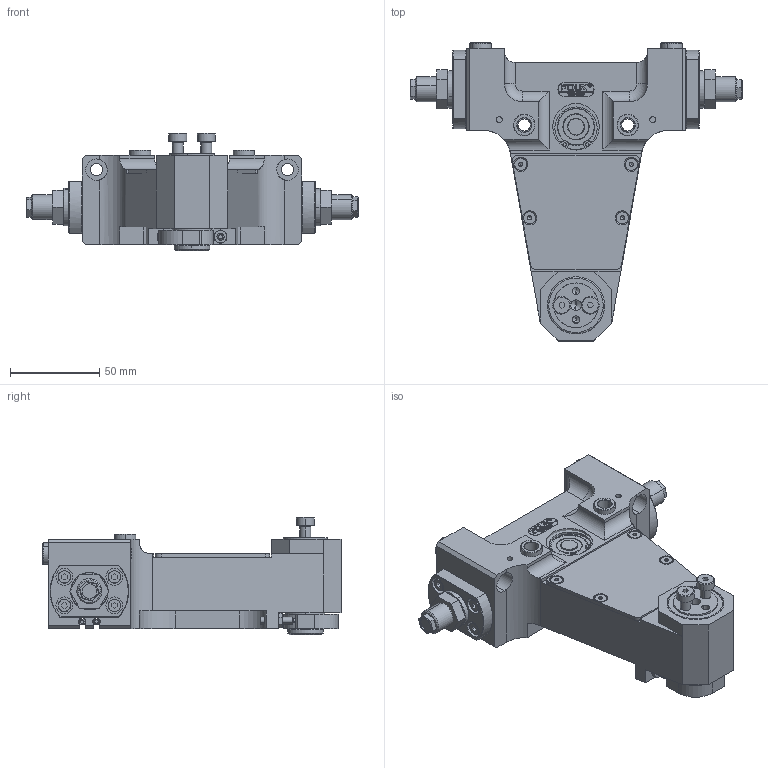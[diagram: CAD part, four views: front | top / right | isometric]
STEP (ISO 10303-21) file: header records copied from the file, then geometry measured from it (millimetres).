
FILE_DESCRIPTION (( 'STEP AP203' ), '1' );
FILE_NAME ('GS25-90¡ã-L.STEP', '2026-05-08T08:09:15', ( 'USER-' ), ( 'Microsoft' ), 'SwSTEP 2.0', 'SolidWorks 2018', '' );
FILE_SCHEMA (( 'CONFIG_CONTROL_DESIGN' ));
Length unit declared in the file: millimetre
Products named in the file (24): 20x8-R4; GS25-90∼-L; GS25-04 葡裔啣; GS25-02 遣喳ん裔啣; M14X1 綠僅6牉挴蹟譫; GB╱T 276-2013[两面带密封圈（接触式）的深沟球轴承[60000-2RS]629-2RS]; GS25-01 褲极; 棠羲換覜ん; 湍潛蹟邡; TG25-M-09躇猾詩遠; GB╱T 6174-2016[六角薄螺母 无倒角M4]; GB╱T 893.1-1986[孔用弹性挡圈A型26]; GB╱T 79-2007[内六角圆柱端紧定螺钉M4×20]; GS25-11 茞癹弇傷裔; YH1412-AP-01蜊輛倰褲极-1; 1412倰遣喳ん蜊輛遴(1)-2; 内六角平端紧定螺钉[GBT77-2000][M5×5]_M5×5; GS25-08 第二齿轮轴16×1.25; ﾏ擎ﾗ12｡ﾁ8｡ﾁ6; GS25-06 第一齿轮轴16×1.25; GB╱T 290-2017[一面带密封圈的开口型滚针轴承 HK 0000-RS型HK2516-RS]; 内六角圆柱头螺钉[GBT70_1-2008][M4×12]_M4×12; 内六角沉头螺钉[GBT70_3-2008][M3×8×6]_M3×8×6; GS25-10 90｡耨ｲﾏﾞﾎｻ
Assembly tree (44 placements, depth 3):
  GS25-90∼-L
    GS25-01 褲极
    GB╱T 290-2017[一面带密封圈的开口型滚针轴承 HK 0000-RS型HK2516-RS]
    GS25-06 第一齿轮轴16×1.25
    GS25-08 第二齿轮轴16×1.25
    GS25-02 遣喳ん裔啣  x2
    GB╱T 276-2013[两面带密封圈（接触式）的深沟球轴承[60000-2RS]629-2RS]
    GB╱T 893.1-1986[孔用弹性挡圈A型26]
    GS25-04 葡裔啣
    GB╱T 79-2007[内六角圆柱端紧定螺钉M4×20]  x2
    GB╱T 6174-2016[六角薄螺母 无倒角M4]  x2
    GS25-10 90｡耨ｲﾏﾞﾎｻ
    GS25-11 茞癹弇傷裔
    TG25-M-09躇猾詩遠  x2
    M14X1 綠僅6牉挴蹟譫  x2
    20x8-R4
    棠羲換覜ん  x2
    内六角沉头螺钉[GBT70_3-2008][M3×8×6]_M3×8×6  x4
    内六角圆柱头螺钉[GBT70_1-2008][M4×12]_M4×12  x8
    ﾏ擎ﾗ12｡ﾁ8｡ﾁ6  x4
    1412倰遣喳ん蜊輛遴(1)-2  x2
      YH1412-AP-01蜊輛倰褲极-1
    湍潛蹟邡  x2
    内六角平端紧定螺钉[GBT77-2000][M5×5]_M5×5
Bounding box: 186 x 167 x 66 mm (x, y, z)
Volume: 405291.7 mm3; surface area: 122453.5 mm2
Topology: 55 solids, 55 shells, 1702 faces, 4092 edges, 2556 vertices
Faces by surface type: plane 696, cylinder 476, cone 244, bspline 240, torus 46
Entity records: 47715 total; most frequent: CARTESIAN_POINT 16017, ORIENTED_EDGE 6084, DIRECTION 5550, EDGE_CURVE 3042, VERTEX_POINT 1975, AXIS2_PLACEMENT_3D 1966, VECTOR 1618, LINE 1618
